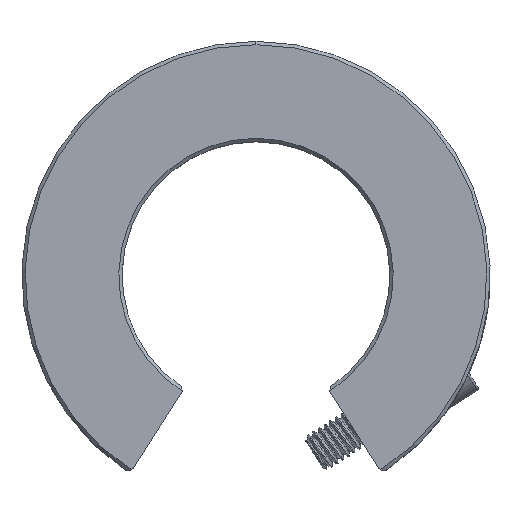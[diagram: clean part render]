
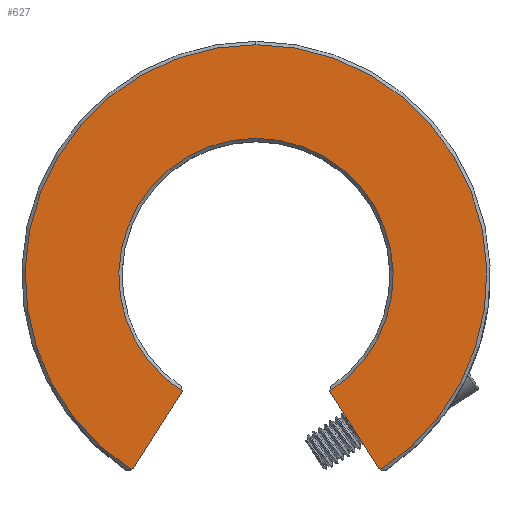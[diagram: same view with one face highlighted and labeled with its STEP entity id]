
A CAD part, top view. The second image highlights one B-rep face of the part: STEP entity #627.
In plain terms, the highlighted planar face has unit normal (0, 0, 1) as drawn and (0, 1, 0) by its records, which use the part's own axes.
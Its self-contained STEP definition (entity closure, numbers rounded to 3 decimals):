
#19 = DIRECTION ( 'NONE',  ( 0., 1., 0. ) ) ;
#270 = EDGE_CURVE ( 'NONE', #4121, #7479, #1212, .T. ) ;
#407 = CARTESIAN_POINT ( 'NONE',  ( -19.104, 18., 28.126 ) ) ;
#478 = FACE_OUTER_BOUND ( 'NONE', #3082, .T. ) ;
#523 = DIRECTION ( 'NONE',  ( 0., 0., 1. ) ) ;
#590 = AXIS2_PLACEMENT_3D ( 'NONE', #407, #1909, #4686 ) ;
#627 = ADVANCED_FACE ( 'NONE', ( #478 ), #6959, .T. ) ;
#914 = LINE ( 'NONE', #8143, #4352 ) ;
#1038 = CIRCLE ( 'NONE', #590, 1. ) ;
#1058 = CARTESIAN_POINT ( 'NONE',  ( 19.104, 18., 28.126 ) ) ;
#1059 = AXIS2_PLACEMENT_3D ( 'NONE', #8632, #2201, #523 ) ;
#1212 = CIRCLE ( 'NONE', #6466, 34.5 ) ;
#1321 = DIRECTION ( 'NONE',  ( 0., 0., 1. ) ) ;
#1392 = ORIENTED_EDGE ( 'NONE', *, *, #270, .T. ) ;
#1502 = CIRCLE ( 'NONE', #8097, 34.5 ) ;
#1514 = CARTESIAN_POINT ( 'NONE',  ( -11.015, 18., 17.29 ) ) ;
#1703 = EDGE_CURVE ( 'NONE', #9175, #6847, #1966, .T. ) ;
#1909 = DIRECTION ( 'NONE',  ( 0., 1., 0. ) ) ;
#1966 = CIRCLE ( 'NONE', #8264, 1. ) ;
#2019 = LINE ( 'NONE', #7519, #8833 ) ;
#2065 = AXIS2_PLACEMENT_3D ( 'NONE', #5696, #5745, #1321 ) ;
#2198 = ORIENTED_EDGE ( 'NONE', *, *, #1703, .T. ) ;
#2201 = DIRECTION ( 'NONE',  ( 0., 1., 0. ) ) ;
#2824 = CIRCLE ( 'NONE', #2065, 20.5 ) ;
#2893 = DIRECTION ( 'NONE',  ( 0., 0., 1. ) ) ;
#3065 = CARTESIAN_POINT ( 'NONE',  ( 18.26, 18., 28.663 ) ) ;
#3082 = EDGE_LOOP ( 'NONE', ( #6759, #2198, #4623, #1392, #5204, #6784, #4260 ) ) ;
#3243 = DIRECTION ( 'NONE',  ( 0., 0., 1. ) ) ;
#3558 = CARTESIAN_POINT ( 'NONE',  ( 11.015, 18., 17.29 ) ) ;
#3884 = DIRECTION ( 'NONE',  ( 0., 0., 1. ) ) ;
#4121 = VERTEX_POINT ( 'NONE', #6762 ) ;
#4260 = ORIENTED_EDGE ( 'NONE', *, *, #8896, .T. ) ;
#4352 = VECTOR ( 'NONE', #7351, 1000. ) ;
#4513 = VERTEX_POINT ( 'NONE', #4903 ) ;
#4623 = ORIENTED_EDGE ( 'NONE', *, *, #7787, .T. ) ;
#4686 = DIRECTION ( 'NONE',  ( 0., 0., 1. ) ) ;
#4698 = DIRECTION ( 'NONE',  ( 0.537, 0., -0.843 ) ) ;
#4903 = CARTESIAN_POINT ( 'NONE',  ( -18.26, 18., 28.663 ) ) ;
#4989 = EDGE_CURVE ( 'NONE', #7479, #4513, #1038, .T. ) ;
#5204 = ORIENTED_EDGE ( 'NONE', *, *, #4989, .T. ) ;
#5249 = DIRECTION ( 'NONE',  ( 0., 1., 0. ) ) ;
#5295 = EDGE_CURVE ( 'NONE', #4513, #6337, #2019, .T. ) ;
#5696 = CARTESIAN_POINT ( 'NONE',  ( 0., 18., 0. ) ) ;
#5745 = DIRECTION ( 'NONE',  ( 0., -1., 0. ) ) ;
#6048 = VERTEX_POINT ( 'NONE', #3558 ) ;
#6337 = VERTEX_POINT ( 'NONE', #1514 ) ;
#6458 = CARTESIAN_POINT ( 'NONE',  ( 0., 18., 0. ) ) ;
#6466 = AXIS2_PLACEMENT_3D ( 'NONE', #6458, #19, #2893 ) ;
#6527 = CARTESIAN_POINT ( 'NONE',  ( 18.657, 18., 29.02 ) ) ;
#6759 = ORIENTED_EDGE ( 'NONE', *, *, #7021, .T. ) ;
#6762 = CARTESIAN_POINT ( 'NONE',  ( 0., 18., -34.5 ) ) ;
#6784 = ORIENTED_EDGE ( 'NONE', *, *, #5295, .T. ) ;
#6847 = VERTEX_POINT ( 'NONE', #6527 ) ;
#6959 = PLANE ( 'NONE',  #1059 ) ;
#7021 = EDGE_CURVE ( 'NONE', #6048, #9175, #914, .T. ) ;
#7243 = CARTESIAN_POINT ( 'NONE',  ( -18.657, 18., 29.02 ) ) ;
#7351 = DIRECTION ( 'NONE',  ( 0.537, 0., 0.843 ) ) ;
#7479 = VERTEX_POINT ( 'NONE', #7243 ) ;
#7519 = CARTESIAN_POINT ( 'NONE',  ( -10.746, 18., 16.868 ) ) ;
#7787 = EDGE_CURVE ( 'NONE', #6847, #4121, #1502, .T. ) ;
#8097 = AXIS2_PLACEMENT_3D ( 'NONE', #8910, #8823, #3243 ) ;
#8143 = CARTESIAN_POINT ( 'NONE',  ( 10.746, 18., 16.868 ) ) ;
#8264 = AXIS2_PLACEMENT_3D ( 'NONE', #1058, #5249, #3884 ) ;
#8632 = CARTESIAN_POINT ( 'NONE',  ( 0., 18., 0. ) ) ;
#8823 = DIRECTION ( 'NONE',  ( 0., 1., 0. ) ) ;
#8833 = VECTOR ( 'NONE', #4698, 1000. ) ;
#8896 = EDGE_CURVE ( 'NONE', #6337, #6048, #2824, .T. ) ;
#8910 = CARTESIAN_POINT ( 'NONE',  ( 0., 18., 0. ) ) ;
#9175 = VERTEX_POINT ( 'NONE', #3065 ) ;
